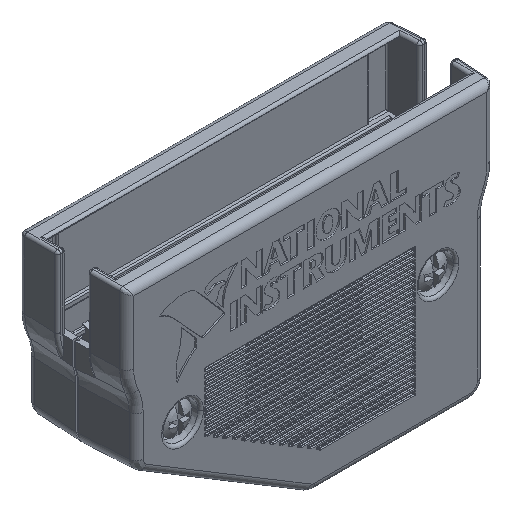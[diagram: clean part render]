
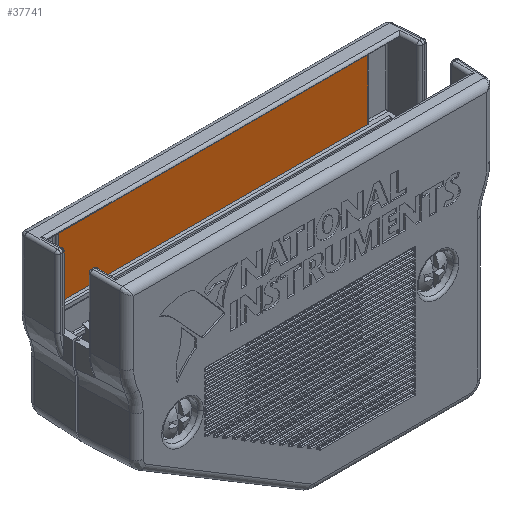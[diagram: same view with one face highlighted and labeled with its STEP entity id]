
A CAD part, isometric view. The second image highlights one B-rep face of the part: STEP entity #37741.
In plain terms, the highlighted planar face has unit normal (0, -1, 0).
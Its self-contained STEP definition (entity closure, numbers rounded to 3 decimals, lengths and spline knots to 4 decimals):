
#5791=DIRECTION('',(-1.,0.,0.));
#5792=VECTOR('',#5791,2.1803);
#5793=CARTESIAN_POINT('',(2.3302,0.619,
0.4546));
#5794=LINE('',#5793,#5792);
#5795=DIRECTION('',(0.,0.,1.));
#5796=VECTOR('',#5795,0.4639);
#5797=CARTESIAN_POINT('',(2.3302,0.619,-0.0093));
#5798=LINE('',#5797,#5796);
#5799=DIRECTION('',(1.,0.,0.));
#5800=VECTOR('',#5799,2.1803);
#5801=CARTESIAN_POINT('',(0.1498,0.619,-0.0093));
#5802=LINE('',#5801,#5800);
#5803=DIRECTION('',(0.,0.,-1.));
#5804=VECTOR('',#5803,0.4639);
#5805=CARTESIAN_POINT('',(0.1498,0.619,
0.4546));
#5806=LINE('',#5805,#5804);
#5818=CARTESIAN_POINT('',(2.3302,0.619,
0.4546));
#31998=CARTESIAN_POINT('',(0.1498,0.619,-0.0093));
#31999=CARTESIAN_POINT('',(2.3302,0.619,-0.0093));
#32000=VERTEX_POINT('',#31998);
#32001=VERTEX_POINT('',#31999);
#32576=VERTEX_POINT('',#5818);
#32579=CARTESIAN_POINT('',(0.1498,0.619,
0.4546));
#32580=VERTEX_POINT('',#32579);
#37729=CARTESIAN_POINT('',(1.24,0.619,-0.4395));
#37730=DIRECTION('',(0.,-1.,0.));
#37731=DIRECTION('',(1.,0.,0.));
#37732=AXIS2_PLACEMENT_3D('',#37729,#37730,#37731);
#37733=PLANE('',#37732);
#37734=ORIENTED_EDGE('',*,*,#37723,.F.);
#37736=ORIENTED_EDGE('',*,*,#37735,.F.);
#37737=ORIENTED_EDGE('',*,*,#34413,.F.);
#37738=ORIENTED_EDGE('',*,*,#37664,.F.);
#37739=EDGE_LOOP('',(#37734,#37736,#37737,#37738));
#37740=FACE_OUTER_BOUND('',#37739,.F.);
#37741=ADVANCED_FACE('',(#37740),#37733,.T.);
#34413=EDGE_CURVE('',#32000,#32001,#5802,.T.);
#37664=EDGE_CURVE('',#32580,#32000,#5806,.T.);
#37723=EDGE_CURVE('',#32576,#32580,#5794,.T.);
#37735=EDGE_CURVE('',#32001,#32576,#5798,.T.);
